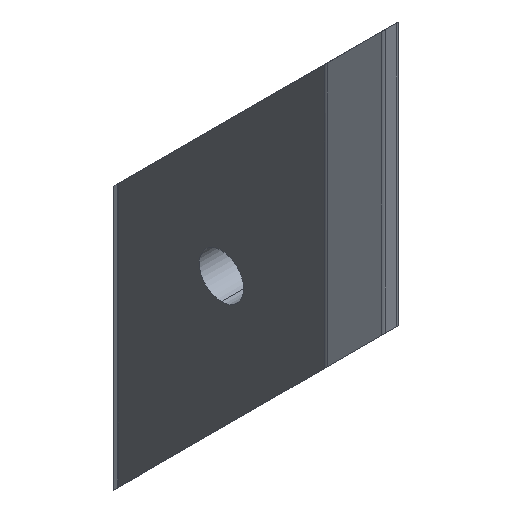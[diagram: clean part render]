
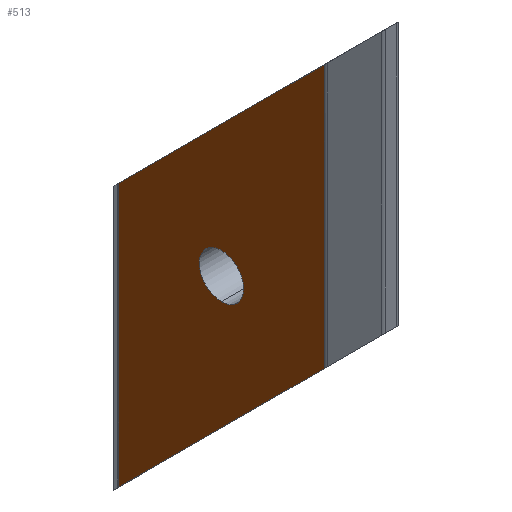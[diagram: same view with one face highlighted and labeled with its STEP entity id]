
A CAD part, isometric view. The second image highlights one B-rep face of the part: STEP entity #513.
In plain terms, the highlighted planar face has unit normal (-1, 0, 0).
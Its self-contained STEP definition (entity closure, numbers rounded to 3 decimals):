
#3 = EDGE_CURVE ( 'NONE', #170, #417, #613, .T. ) ;
#10 = CIRCLE ( 'NONE', #290, 2.5 ) ;
#27 = CARTESIAN_POINT ( 'NONE',  ( -5.6, 15.2, -30. ) ) ;
#30 = EDGE_LOOP ( 'NONE', ( #539, #542, #223, #101 ) ) ;
#32 = CARTESIAN_POINT ( 'NONE',  ( -5.6, 0., 2.5 ) ) ;
#54 = LINE ( 'NONE', #27, #545 ) ;
#59 = CARTESIAN_POINT ( 'NONE',  ( -5.6, 11.549, -26.349 ) ) ;
#78 = CARTESIAN_POINT ( 'NONE',  ( -5.6, 15.2, -0.4 ) ) ;
#81 = CARTESIAN_POINT ( 'NONE',  ( -5.6, -11.549, 30. ) ) ;
#89 = CARTESIAN_POINT ( 'NONE',  ( -5.6, -11.549, 26.349 ) ) ;
#92 = DIRECTION ( 'NONE',  ( 0., 1., 0. ) ) ;
#101 = ORIENTED_EDGE ( 'NONE', *, *, #419, .F. ) ;
#119 = EDGE_CURVE ( 'NONE', #509, #387, #468, .T. ) ;
#128 = AXIS2_PLACEMENT_3D ( 'NONE', #692, #145, #92 ) ;
#145 = DIRECTION ( 'NONE',  ( 1., 0., 0. ) ) ;
#170 = VERTEX_POINT ( 'NONE', #32 ) ;
#214 = VECTOR ( 'NONE', #363, 1000. ) ;
#223 = ORIENTED_EDGE ( 'NONE', *, *, #119, .F. ) ;
#237 = LINE ( 'NONE', #430, #649 ) ;
#246 = EDGE_CURVE ( 'NONE', #279, #288, #237, .T. ) ;
#267 = CARTESIAN_POINT ( 'NONE',  ( -5.6, 0., 0. ) ) ;
#268 = EDGE_LOOP ( 'NONE', ( #322, #461 ) ) ;
#279 = VERTEX_POINT ( 'NONE', #621 ) ;
#288 = VERTEX_POINT ( 'NONE', #59 ) ;
#290 = AXIS2_PLACEMENT_3D ( 'NONE', #267, #646, #315 ) ;
#315 = DIRECTION ( 'NONE',  ( 0., 0., 1. ) ) ;
#322 = ORIENTED_EDGE ( 'NONE', *, *, #3, .F. ) ;
#335 = FACE_BOUND ( 'NONE', #268, .T. ) ;
#345 = LINE ( 'NONE', #78, #497 ) ;
#351 = CARTESIAN_POINT ( 'NONE',  ( -5.6, -11.549, -3.251 ) ) ;
#363 = DIRECTION ( 'NONE',  ( 0., 0., -1. ) ) ;
#376 = DIRECTION ( 'NONE',  ( 0., 0., -1. ) ) ;
#386 = AXIS2_PLACEMENT_3D ( 'NONE', #412, #681, #679 ) ;
#387 = VERTEX_POINT ( 'NONE', #351 ) ;
#412 = CARTESIAN_POINT ( 'NONE',  ( -5.6, 0., 0. ) ) ;
#417 = VERTEX_POINT ( 'NONE', #514 ) ;
#419 = EDGE_CURVE ( 'NONE', #279, #509, #345, .T. ) ;
#430 = CARTESIAN_POINT ( 'NONE',  ( -5.6, 11.549, 30. ) ) ;
#461 = ORIENTED_EDGE ( 'NONE', *, *, #567, .F. ) ;
#468 = LINE ( 'NONE', #81, #214 ) ;
#497 = VECTOR ( 'NONE', #626, 1000. ) ;
#509 = VERTEX_POINT ( 'NONE', #89 ) ;
#513 = ADVANCED_FACE ( 'NONE', ( #335, #648 ), #643, .F. ) ;
#514 = CARTESIAN_POINT ( 'NONE',  ( -5.6, 0., -2.5 ) ) ;
#515 = EDGE_CURVE ( 'NONE', #387, #288, #54, .T. ) ;
#525 = DIRECTION ( 'NONE',  ( 0., 0.707, -0.707 ) ) ;
#539 = ORIENTED_EDGE ( 'NONE', *, *, #246, .T. ) ;
#542 = ORIENTED_EDGE ( 'NONE', *, *, #515, .F. ) ;
#545 = VECTOR ( 'NONE', #525, 1000. ) ;
#567 = EDGE_CURVE ( 'NONE', #417, #170, #10, .T. ) ;
#613 = CIRCLE ( 'NONE', #386, 2.5 ) ;
#621 = CARTESIAN_POINT ( 'NONE',  ( -5.6, 11.549, 3.251 ) ) ;
#626 = DIRECTION ( 'NONE',  ( 0., -0.707, 0.707 ) ) ;
#643 = PLANE ( 'NONE',  #128 ) ;
#646 = DIRECTION ( 'NONE',  ( -1., 0., 0. ) ) ;
#648 = FACE_OUTER_BOUND ( 'NONE', #30, .T. ) ;
#649 = VECTOR ( 'NONE', #376, 1000. ) ;
#679 = DIRECTION ( 'NONE',  ( 0., 0., 1. ) ) ;
#681 = DIRECTION ( 'NONE',  ( -1., 0., 0. ) ) ;
#692 = CARTESIAN_POINT ( 'NONE',  ( -5.6, 11.549, 30. ) ) ;
